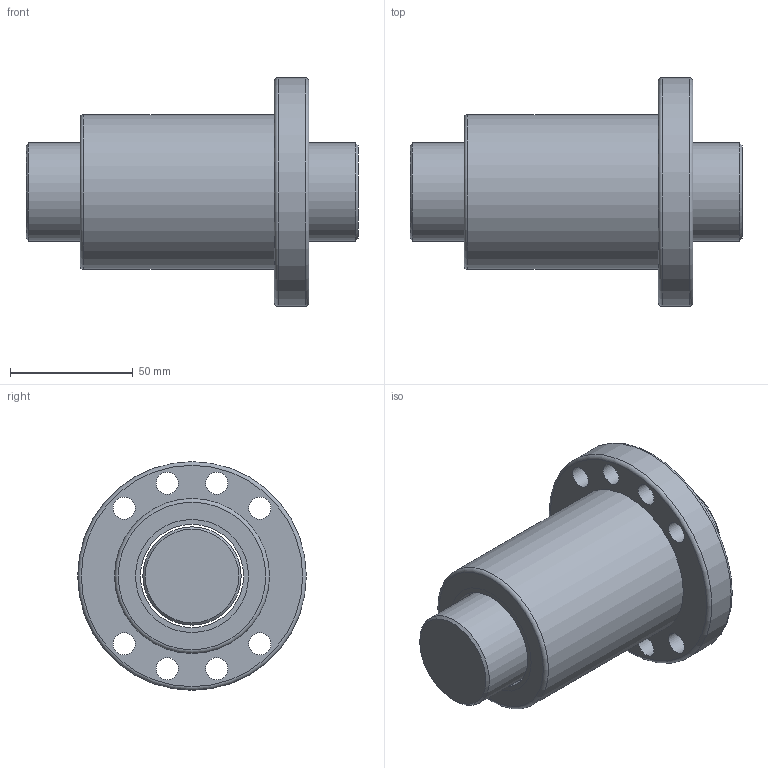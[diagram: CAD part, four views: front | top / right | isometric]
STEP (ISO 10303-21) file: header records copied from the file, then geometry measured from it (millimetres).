
FILE_DESCRIPTION(/* description */ (''),/* implementation_level */ '2;1');
FILE_NAME(/* name */ 'SFU4010',/* time_stamp */ '2007-10-26T13:32:48+08:00',/* author */ (''),/* organization */ (''),/* preprocessor_version */ 'ST-DEVELOPER v9',/* originating_system */ 'EDS PLM SOLUTIONS - UNIGRAPHICS NX 1.0',/* authorisation */ '');
FILE_SCHEMA (('CONFIG_CONTROL_DESIGN'));
Length unit declared in the file: millimetre
Products named in the file (1): FANNDA0400if
Bounding box: 135 x 93 x 93 mm (x, y, z)
Volume: 374539.6 mm3; surface area: 68356.5 mm2
Topology: 4 solids, 4 shells, 34 faces, 72 edges, 49 vertices
Faces by surface type: cylinder 18, plane 11, torus 3, cone 2
Full cylindrical faces by diameter (mm): 9 x8, 40 x1, 42 x3, 46 x4, 63 x1, 93 x1
Entity records: 878 total; most frequent: DIRECTION 152, CARTESIAN_POINT 117, EDGE_LOOP 82, ORIENTED_EDGE 82, AXIS2_PLACEMENT_3D 76, FACE_BOUND 69, VERTEX_POINT 41, EDGE_CURVE 41
